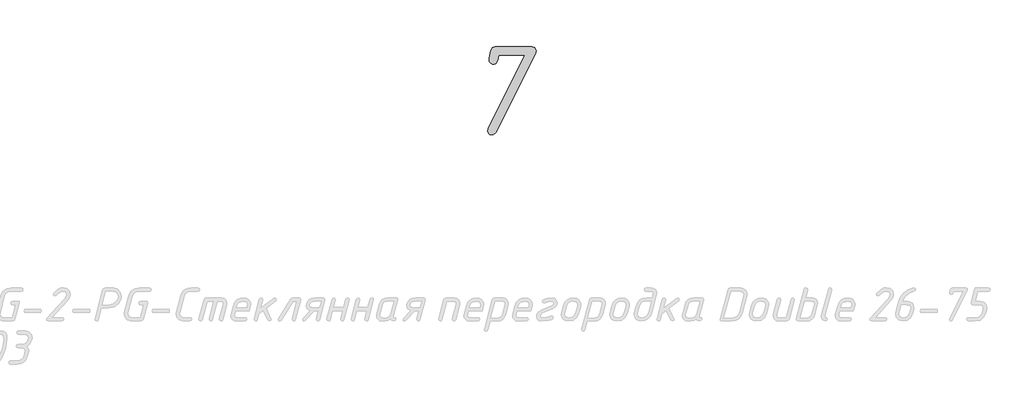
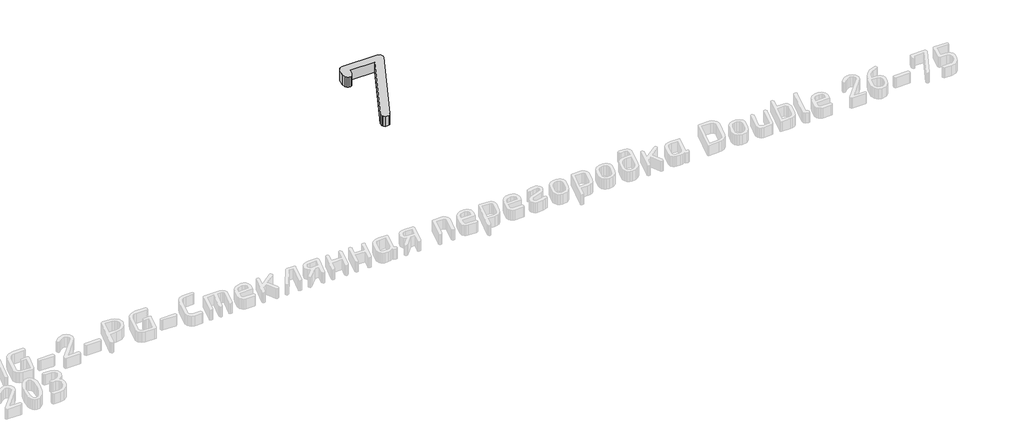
# One storey, part 17 of 22: 1 proxy.
"""IFC4 building model written with IfcOpenShell, lengths in millimetres."""

from ifc_helpers import new_model, si_unit, origin, origin_with_axes, place, context, project, spatial, polyline, outline, extrude, element, save

model = new_model("IFC4")

# Units and contexts
model_context = context("Model", 3, world=origin())
ifc_project = project(units=[si_unit("LENGTHUNIT", "METRE", prefix="MILLI")], contexts=[model_context])

# Site, building, storey
site = spatial("IfcSite", under=ifc_project)
building = spatial("IfcBuilding", under=site)
storey = spatial("IfcBuildingStorey", under=building, Name="Уровень 1", Elevation=0.0)

# Proxy
placement = place(None, origin())
element("IfcBuildingElementProxy", 1, Name="100", ObjectType="100", at=placement, inside=storey, context=model_context, shape_type="SweptSolid", body=[
    extrude(outline(polyline([(-24661.8764439, -24528.1344214), (-24778.8547348, -24528.1344214), (-24783.9685398, -24550.5073186), (-24792.5181827, -24565.1562393), (-24799.3698824, -24567.9661687), (-24807.9395011, -24567.7664107), (-24816.1362381, -24563.7046644), (-24821.336605, -24557.8051445), (-24822.7482282, -24540.4927836), (-24815.5036711, -24508.1053516), (-24808.5254579, -24493.0835492), (-24795.4746012, -24488.0762817), (-24630.0216998, -24488.0762817), (-24614.9998974, -24493.0835492), (-24609.99263, -24508.1053516), (-24611.8037693, -24517.161048), (-24791.213097, -24877.2581547), (-24796.1404613, -24883.5172391), (-24803.0387712, -24887.1661521), (-24819.0194121, -24886.9530769), (-24824.4528299, -24882.1322502), (-24828.1816461, -24874.1685642), (-24827.0097325, -24859.359837), (-24661.8764439, -24528.1344214)])), origin_with_axes(), (0.0, 0.0, 1.0), 50.0),
])

save(model, "model.ifc")
